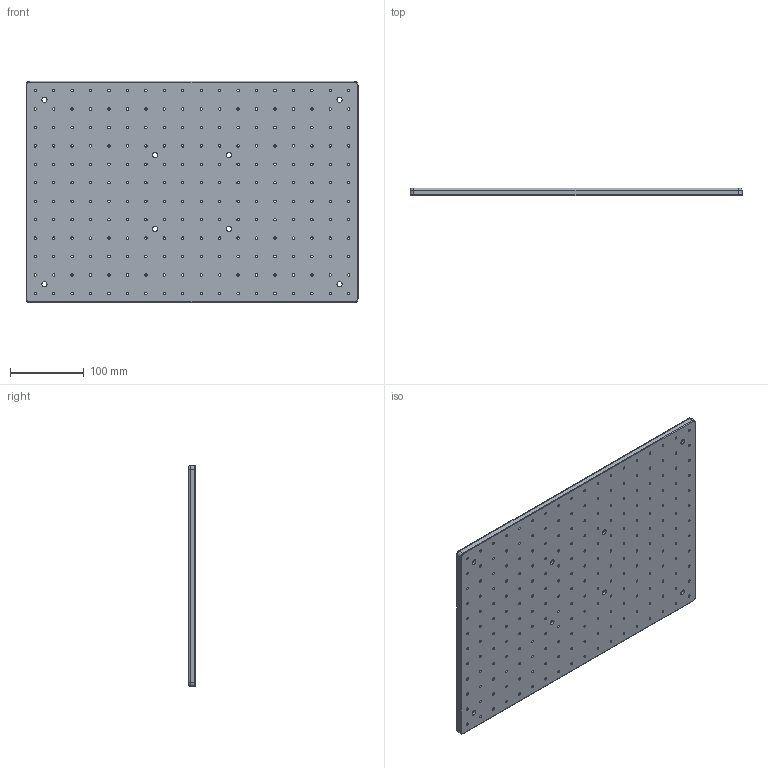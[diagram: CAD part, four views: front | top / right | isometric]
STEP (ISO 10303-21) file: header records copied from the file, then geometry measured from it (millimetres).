
FILE_DESCRIPTION (( 'STEP AP203' ), '1' );
FILE_NAME ('M-PAB-3045-10.step', '2017-01-10T01:15:08', ( '¦K¬P' ), ( '' ), 'SwSTEP 2.0', 'SolidWorks 2012', '' );
FILE_SCHEMA (( 'CONFIG_CONTROL_DESIGN' ));
Length unit declared in the file: millimetre
Products named in the file (1): M-PAB-3045-10
Bounding box: 450 x 10 x 300 mm (x, y, z)
Volume: 1322144.7 mm3; surface area: 302791.6 mm2
Topology: 1 solids, 1 shells, 266 faces, 752 edges, 496 vertices
Faces by surface type: cylinder 244, plane 14, torus 8
Full cylindrical faces by diameter (mm): 3.3 x216, 7 x8, 11 x8
Entity records: 8717 total; most frequent: DIRECTION 1550, CARTESIAN_POINT 1283, ORIENTED_EDGE 1040, EDGE_LOOP 954, AXIS2_PLACEMENT_3D 763, EDGE_CURVE 520, FACE_OUTER_BOUND 498, CIRCLE 496
